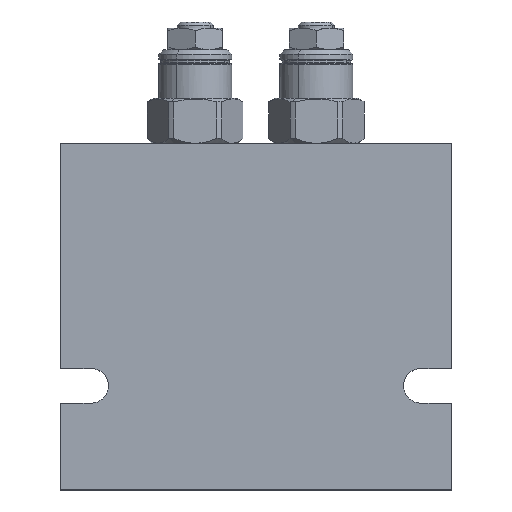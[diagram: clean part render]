
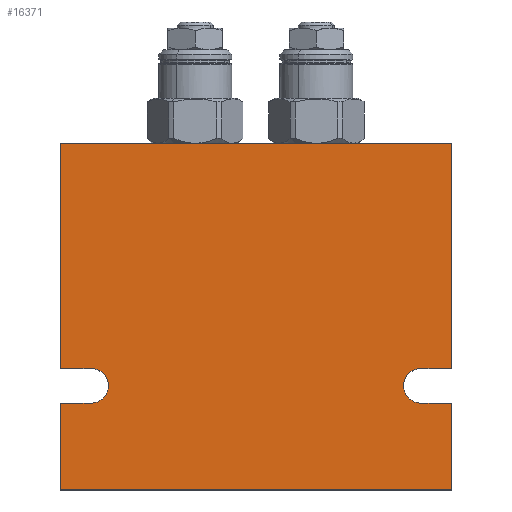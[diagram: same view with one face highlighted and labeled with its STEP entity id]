
A CAD part, top view. The second image highlights one B-rep face of the part: STEP entity #16371.
In plain terms, the highlighted planar face has unit normal (0, 0, 1).
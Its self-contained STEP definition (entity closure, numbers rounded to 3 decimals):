
#1614=LINE('',#22500,#2479);
#1619=LINE('',#22563,#2484);
#1622=LINE('',#22683,#2487);
#1627=LINE('',#23087,#2492);
#1628=LINE('',#23836,#2493);
#1631=LINE('',#23842,#2496);
#1632=LINE('',#23846,#2497);
#1633=LINE('',#23847,#2498);
#1634=LINE('',#23849,#2499);
#1635=LINE('',#23853,#2500);
#2479=VECTOR('',#18860,1000.);
#2484=VECTOR('',#18871,1000.);
#2487=VECTOR('',#18884,1000.);
#2492=VECTOR('',#18907,1000.);
#2493=VECTOR('',#18910,1000.);
#2496=VECTOR('',#18915,1000.);
#2497=VECTOR('',#18918,1000.);
#2498=VECTOR('',#18919,1000.);
#2499=VECTOR('',#18920,1000.);
#2500=VECTOR('',#18923,1000.);
#3348=PLANE('',#17464);
#4455=ORIENTED_EDGE('',*,*,#9647,.T.);
#4456=ORIENTED_EDGE('',*,*,#9648,.T.);
#4457=ORIENTED_EDGE('',*,*,#9649,.T.);
#4458=ORIENTED_EDGE('',*,*,#9644,.F.);
#4459=ORIENTED_EDGE('',*,*,#9255,.F.);
#4460=ORIENTED_EDGE('',*,*,#9650,.F.);
#4461=ORIENTED_EDGE('',*,*,#9651,.F.);
#4462=ORIENTED_EDGE('',*,*,#9652,.F.);
#4463=ORIENTED_EDGE('',*,*,#9653,.F.);
#4464=ORIENTED_EDGE('',*,*,#9213,.F.);
#4465=ORIENTED_EDGE('',*,*,#9394,.F.);
#4466=ORIENTED_EDGE('',*,*,#9190,.F.);
#9190=EDGE_CURVE('',#11788,#11789,#1614,.T.);
#9213=EDGE_CURVE('',#11811,#11809,#1619,.T.);
#9255=EDGE_CURVE('',#11853,#11854,#1622,.T.);
#9394=EDGE_CURVE('',#11789,#11811,#1627,.T.);
#9644=EDGE_CURVE('',#11854,#12239,#1628,.T.);
#9647=EDGE_CURVE('',#11788,#12241,#1631,.T.);
#9648=EDGE_CURVE('',#12241,#12242,#13470,.T.);
#9649=EDGE_CURVE('',#12242,#12239,#1632,.T.);
#9650=EDGE_CURVE('',#12243,#11853,#1633,.T.);
#9651=EDGE_CURVE('',#12244,#12243,#1634,.T.);
#9652=EDGE_CURVE('',#12245,#12244,#13471,.T.);
#9653=EDGE_CURVE('',#11809,#12245,#1635,.T.);
#11788=VERTEX_POINT('',#22499);
#11789=VERTEX_POINT('',#22501);
#11809=VERTEX_POINT('',#22558);
#11811=VERTEX_POINT('',#22562);
#11853=VERTEX_POINT('',#22682);
#11854=VERTEX_POINT('',#22684);
#12239=VERTEX_POINT('',#23837);
#12241=VERTEX_POINT('',#23843);
#12242=VERTEX_POINT('',#23845);
#12243=VERTEX_POINT('',#23848);
#12244=VERTEX_POINT('',#23850);
#12245=VERTEX_POINT('',#23852);
#13470=CIRCLE('',#17465,4.5);
#13471=CIRCLE('',#17466,4.5);
#13850=EDGE_LOOP('',(#4455,#4456,#4457,#4458,#4459,#4460,#4461,#4462,#4463,
#4464,#4465,#4466));
#15029=FACE_BOUND('',#13850,.T.);
#16371=ADVANCED_FACE('',(#15029),#3348,.F.);
#17464=AXIS2_PLACEMENT_3D('',#23841,#18913,#18914);
#17465=AXIS2_PLACEMENT_3D('',#23844,#18916,#18917);
#17466=AXIS2_PLACEMENT_3D('',#23851,#18921,#18922);
#18860=DIRECTION('',(0.,1.,0.));
#18871=DIRECTION('',(0.,-1.,0.));
#18884=DIRECTION('',(-1.,0.,0.));
#18907=DIRECTION('',(1.,0.,0.));
#18910=DIRECTION('',(0.,1.,0.));
#18913=DIRECTION('',(0.,0.,-1.));
#18914=DIRECTION('',(-1.,0.,0.));
#18915=DIRECTION('',(1.,0.,0.));
#18916=DIRECTION('',(0.,0.,-1.));
#18917=DIRECTION('',(-1.,0.,0.));
#18918=DIRECTION('',(-1.,0.,0.));
#18919=DIRECTION('',(0.,-1.,0.));
#18920=DIRECTION('',(1.,0.,0.));
#18921=DIRECTION('',(0.,0.,1.));
#18922=DIRECTION('',(1.,0.,0.));
#18923=DIRECTION('',(-1.,0.,0.));
#22499=CARTESIAN_POINT('',(0.,31.5,38.));
#22500=CARTESIAN_POINT('',(0.,0.,38.));
#22501=CARTESIAN_POINT('',(0.,90.,38.));
#22558=CARTESIAN_POINT('',(101.6,31.5,38.));
#22562=CARTESIAN_POINT('',(101.6,90.,38.));
#22563=CARTESIAN_POINT('',(101.6,90.,38.));
#22682=CARTESIAN_POINT('',(101.6,0.,38.));
#22683=CARTESIAN_POINT('',(101.6,0.,38.));
#22684=CARTESIAN_POINT('',(0.,0.,38.));
#23087=CARTESIAN_POINT('',(0.,90.,38.));
#23836=CARTESIAN_POINT('',(0.,0.,38.));
#23837=CARTESIAN_POINT('',(0.,22.5,38.));
#23841=CARTESIAN_POINT('',(0.,0.,38.));
#23842=CARTESIAN_POINT('',(0.,31.5,38.));
#23843=CARTESIAN_POINT('',(8.,31.5,38.));
#23844=CARTESIAN_POINT('',(8.,27.,38.));
#23845=CARTESIAN_POINT('',(8.,22.5,38.));
#23846=CARTESIAN_POINT('',(8.,22.5,38.));
#23847=CARTESIAN_POINT('',(101.6,90.,38.));
#23848=CARTESIAN_POINT('',(101.6,22.5,38.));
#23849=CARTESIAN_POINT('',(93.6,22.5,38.));
#23850=CARTESIAN_POINT('',(93.6,22.5,38.));
#23851=CARTESIAN_POINT('',(93.6,27.,38.));
#23852=CARTESIAN_POINT('',(93.6,31.5,38.));
#23853=CARTESIAN_POINT('',(101.6,31.5,38.));
